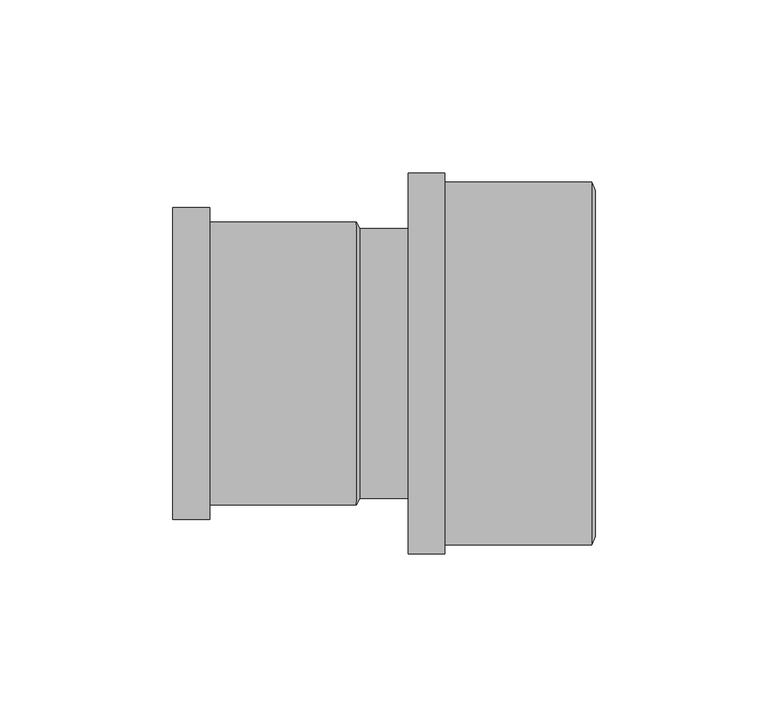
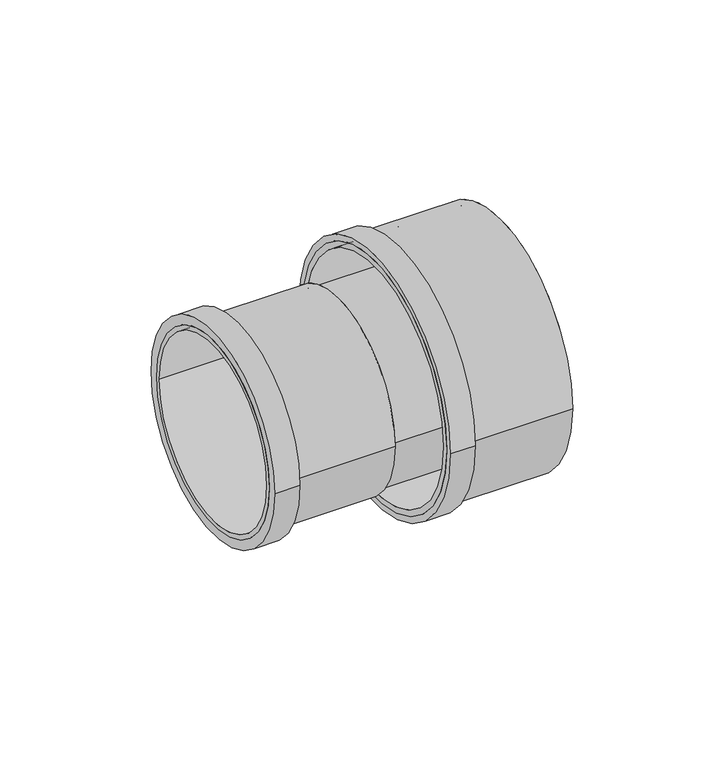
"""IFC4 building model written with IfcOpenShell, lengths in millimetres: pipe fitting geometry, Superdrain SKAM Single socket : Superdrain SKAM Single socket."""

from ifc_helpers import new_model, si_unit, point, frame, origin, origin_2d, place, context, project, spatial, polyline, circle_curve, trimmed, segment, composite_curve, outline, extrude, source, transform, mapped, element, save
from ifc_brep_helpers import plane_surface, revolved_surface, advanced_brep


def pipe_fitting_c5eb8bb2(model_context):
    return source(origin(), model_context, "Body", "SolidModel", [
        extrude(outline(composite_curve([segment(trimmed(circle_curve(origin_2d(), 52.5), [point((-52.5, 0.0))], [point((52.5, 0.0))], False, "CARTESIAN"), True, "CONTINUOUS"), segment(trimmed(circle_curve(origin_2d(), 52.5), [point((52.5, 0.0))], [point((-52.5, 0.0))], False, "CARTESIAN"), True, "CONTINUOUS")], self_intersect=False), holes=[composite_curve([segment(trimmed(circle_curve(origin_2d(), 50.0), [point((-50.0, 0.0))], [point((50.0, 0.0))], True, "CARTESIAN"), True, "CONTINUOUS"), segment(trimmed(circle_curve(origin_2d(), 50.0), [point((50.0, 0.0))], [point((-50.0, 0.0))], True, "CARTESIAN"), True, "CONTINUOUS")], self_intersect=False)]), frame((11.0, 0.0, 0.0), z_axis=(1.0, 0.0, 0.0), x_axis=(0.0, 1.0, 0.0)), (0.0, 0.0, 1.0), 53.0),
        extrude(outline(composite_curve([segment(trimmed(circle_curve(origin_2d(), 55.125), [point((-55.125, 0.0))], [point((55.125, 0.0))], False, "CARTESIAN"), True, "CONTINUOUS"), segment(trimmed(circle_curve(origin_2d(), 55.125), [point((55.125, 0.0))], [point((-55.125, 0.0))], False, "CARTESIAN"), True, "CONTINUOUS")], self_intersect=False), holes=[composite_curve([segment(trimmed(circle_curve(origin_2d(), 50.0), [point((-50.0, 0.0))], [point((50.0, 0.0))], True, "CARTESIAN"), True, "CONTINUOUS"), segment(trimmed(circle_curve(origin_2d(), 50.0), [point((50.0, 0.0))], [point((-50.0, 0.0))], True, "CARTESIAN"), True, "CONTINUOUS")], self_intersect=False)]), frame((11.0, 0.0, 0.0), z_axis=(1.0, 0.0, 0.0), x_axis=(0.0, 1.0, 0.0)), (0.0, 0.0, 1.0), 10.6),
        advanced_brep(
        [(65.0, -50.0, 0.0), (65.0, 50.0, 0.0), (64.0, -52.5, 0.0), (64.0, 52.5, 0.0)],
        [
            (0, 1, circle_curve(frame((65.0, 0.0, 0.0), z_axis=(1.0, 0.0, 0.0), x_axis=(0.0, -1.0, 0.0)), 50.0)),
            (1, 0, circle_curve(frame((65.0, 0.0, 0.0), z_axis=(1.0, 0.0, 0.0), x_axis=(0.0, 1.0, 0.0)), 50.0)),
            (2, 3, circle_curve(frame((64.0, 0.0, 0.0), z_axis=(-1.0, 0.0, 0.0), x_axis=(0.0, 1.0, 0.0)), 52.5)),
            (3, 2, circle_curve(frame((64.0, 0.0, 0.0), z_axis=(-1.0, 0.0, 0.0), x_axis=(0.0, -1.0, 0.0)), 52.5)),
            (3, 1),
            (0, 2),
        ],
        [
            plane_surface(frame((65.0, 0.0, 0.0), z_axis=(1.0, 0.0, 0.0), x_axis=(0.0, 0.0, -1.0))),
            plane_surface(frame((64.0, 0.0, 0.0), z_axis=(-1.0, 0.0, 0.0), x_axis=(0.0, 0.0, -1.0))),
            revolved_surface(polyline([(65.0, -50.0, 0.0), (64.0, -52.5, 0.0)]), (85.0, 0.0, 0.0), (-1.0, 0.0, 0.0)),
            revolved_surface(polyline([(65.0, 50.0, 0.0), (64.0, 52.5, 0.0)]), (85.0, 0.0, 0.0), (-1.0, 0.0, 0.0)),
        ],
        [
            (0, [[1, 2]]),
            (1, [[3, 4]]),
            (2, [[-4, 5, -1, 6]]),
            (3, [[-3, -6, -2, -5]]),
        ],
    ),
        extrude(outline(composite_curve([segment(trimmed(circle_curve(origin_2d(), 40.95), [point((-40.95, 0.0))], [point((40.95, 0.0))], False, "CARTESIAN"), True, "CONTINUOUS"), segment(trimmed(circle_curve(origin_2d(), 40.95), [point((40.95, 0.0))], [point((-40.95, 0.0))], False, "CARTESIAN"), True, "CONTINUOUS")], self_intersect=False), holes=[composite_curve([segment(trimmed(circle_curve(origin_2d(), 39.0), [point((-39.0, 0.0))], [point((39.0, 0.0))], True, "CARTESIAN"), True, "CONTINUOUS"), segment(trimmed(circle_curve(origin_2d(), 39.0), [point((39.0, 0.0))], [point((-39.0, 0.0))], True, "CARTESIAN"), True, "CONTINUOUS")], self_intersect=False)]), frame((-57.0, 0.0, 0.0), z_axis=(1.0, 0.0, 0.0), x_axis=(0.0, 1.0, 0.0)), (0.0, 0.0, 1.0), 53.0),
        extrude(outline(composite_curve([segment(trimmed(circle_curve(origin_2d(), 45.045), [point((-45.045, 0.0))], [point((45.045, 0.0))], False, "CARTESIAN"), True, "CONTINUOUS"), segment(trimmed(circle_curve(origin_2d(), 45.045), [point((45.045, 0.0))], [point((-45.045, 0.0))], False, "CARTESIAN"), True, "CONTINUOUS")], self_intersect=False), holes=[composite_curve([segment(trimmed(circle_curve(origin_2d(), 39.0), [point((-39.0, 0.0))], [point((39.0, 0.0))], True, "CARTESIAN"), True, "CONTINUOUS"), segment(trimmed(circle_curve(origin_2d(), 39.0), [point((39.0, 0.0))], [point((-39.0, 0.0))], True, "CARTESIAN"), True, "CONTINUOUS")], self_intersect=False)]), frame((-57.0, 0.0, 0.0), z_axis=(1.0, 0.0, 0.0), x_axis=(0.0, 1.0, 0.0)), (0.0, 0.0, 1.0), 10.6),
        advanced_brep(
        [(-3.0, -39.0, 0.0), (-3.0, 39.0, 0.0), (-4.0, -40.95, 0.0), (-4.0, 40.95, 0.0)],
        [
            (0, 1, circle_curve(frame((-3.0, 0.0, 0.0), z_axis=(1.0, 0.0, 0.0), x_axis=(0.0, -1.0, 0.0)), 39.0)),
            (1, 0, circle_curve(frame((-3.0, 0.0, 0.0), z_axis=(1.0, 0.0, 0.0), x_axis=(0.0, 1.0, 0.0)), 39.0)),
            (2, 3, circle_curve(frame((-4.0, 0.0, 0.0), z_axis=(-1.0, 0.0, 0.0), x_axis=(0.0, 1.0, 0.0)), 40.95)),
            (3, 2, circle_curve(frame((-4.0, 0.0, 0.0), z_axis=(-1.0, 0.0, 0.0), x_axis=(0.0, -1.0, 0.0)), 40.95)),
            (3, 1),
            (0, 2),
        ],
        [
            plane_surface(frame((-3.0, 0.0, 0.0), z_axis=(1.0, 0.0, 0.0), x_axis=(0.0, 0.0, -1.0))),
            plane_surface(frame((-4.0, 0.0, 0.0), z_axis=(-1.0, 0.0, 0.0), x_axis=(0.0, 0.0, -1.0))),
            revolved_surface(polyline([(-3.0, -39.0, 0.0), (-4.0, -40.95, 0.0)]), (17.0, 0.0, 0.0), (-1.0, 0.0, 0.0)),
            revolved_surface(polyline([(-3.0, 39.0, 0.0), (-4.0, 40.95, 0.0)]), (17.0, 0.0, 0.0), (-1.0, 0.0, 0.0)),
        ],
        [
            (0, [[1, 2]]),
            (1, [[3, 4]]),
            (2, [[-4, 5, -1, 6]]),
            (3, [[-3, -6, -2, -5]]),
        ],
    ),
        extrude(outline(composite_curve([segment(trimmed(circle_curve(origin_2d(), 39.0), [point((-39.0, 0.0))], [point((39.0, 0.0))], False, "CARTESIAN"), True, "CONTINUOUS"), segment(trimmed(circle_curve(origin_2d(), 39.0), [point((39.0, 0.0))], [point((-39.0, 0.0))], False, "CARTESIAN"), True, "CONTINUOUS")], self_intersect=False)), frame((-4.0, 0.0, 0.0), z_axis=(1.0, 0.0, 0.0), x_axis=(0.0, 1.0, 0.0)), (0.0, 0.0, 1.0), 68.0),
    ])


if __name__ == "__main__":
    model = new_model("IFC4")
    model_context = context("Model", 3, world=origin())
    ifc_project = project(units=[si_unit("LENGTHUNIT", "METRE", prefix="MILLI")], contexts=[model_context])
    site = spatial("IfcSite", under=ifc_project)
    building = spatial("IfcBuilding", under=site)
    placement = place(None, origin())
    pipe_fitting_shape = pipe_fitting_c5eb8bb2(model_context)
    element("IfcPipeFitting", 1, ObjectType="Superdrain SKAM Single socket : Superdrain SKAM Single socket", at=placement, inside=building, context=model_context, shape_type="MappedRepresentation", body=[
        mapped(pipe_fitting_shape, transform((0.0, 0.0, 0.0), x_axis=(1.0, 0.0, 0.0), y_axis=(0.0, 1.0, 0.0), z_axis=(0.0, 0.0, 1.0))),
    ])
    save(model, "model.ifc")
